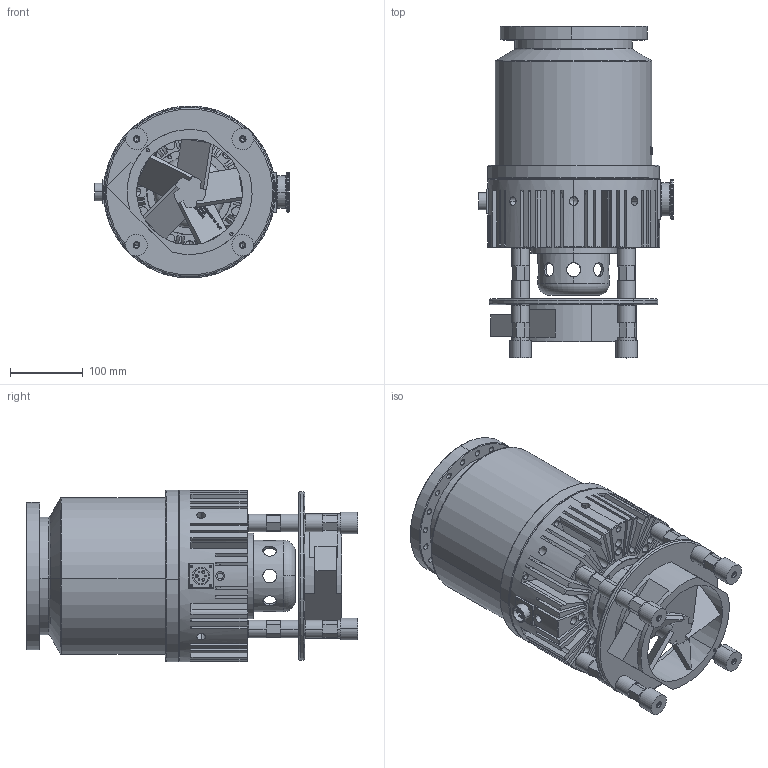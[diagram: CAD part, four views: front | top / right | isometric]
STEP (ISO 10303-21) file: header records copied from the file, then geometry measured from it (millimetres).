
FILE_DESCRIPTION (( 'STEP AP203' ), '1' );
FILE_NAME ('CF-600FD-00W.STEP', '2025-03-29T08:33:46', ( 'User' ), ( 'China' ), 'SwSTEP 2.0', 'SolidWorks 2016', '' );
FILE_SCHEMA (( 'CONFIG_CONTROL_DESIGN' ));
Length unit declared in the file: millimetre
Products named in the file (15): 600蝶杶; SJJTB-07-01A; 萇埭諉芛; SJJTB-07-00H; hexagon socket head cap screws gb_PreviewCfg; SJJTB-600-02; 蹟翐M8℅25; JTFB600D-14-01-01｣ﾗ; SJJTB-600F-17; SJJTB-600D-14-01-00｣ﾗ; 瑞圮; SJJTB-600D-14-00W; CF-600FD-00W; SJJTB-600F-15; SJJTB-600F-16W
Assembly tree (26 placements, depth 4):
  CF-600FD-00W
    SJJTB-07-00H
      SJJTB-07-01A
    SJJTB-600-02
    SJJTB-600D-14-00W
      SJJTB-600D-14-01-00｣ﾗ
        JTFB600D-14-01-01｣ﾗ
    SJJTB-600F-15  x8
    SJJTB-600F-16W
    600蝶杶  x4
    萇埭諉芛
    hexagon socket head cap screws gb_PreviewCfg  x3
    蹟翐M8℅25
    SJJTB-600F-17
    瑞圮
Bounding box: 267.02 x 455.25 x 236 mm (x, y, z)
Volume: 11720768.1 mm3; surface area: 1042176.7 mm2
Topology: 23 solids, 74 shells, 4215 faces, 11652 edges, 7648 vertices
Faces by surface type: plane 2360, bspline 1071, cylinder 505, cone 245, torus 34
Entity records: 210422 total; most frequent: CARTESIAN_POINT 115692, ORIENTED_EDGE 21944, DIRECTION 14447, EDGE_CURVE 10972, VERTEX_POINT 7266, VECTOR 7123, LINE 7123, EDGE_LOOP 4252
